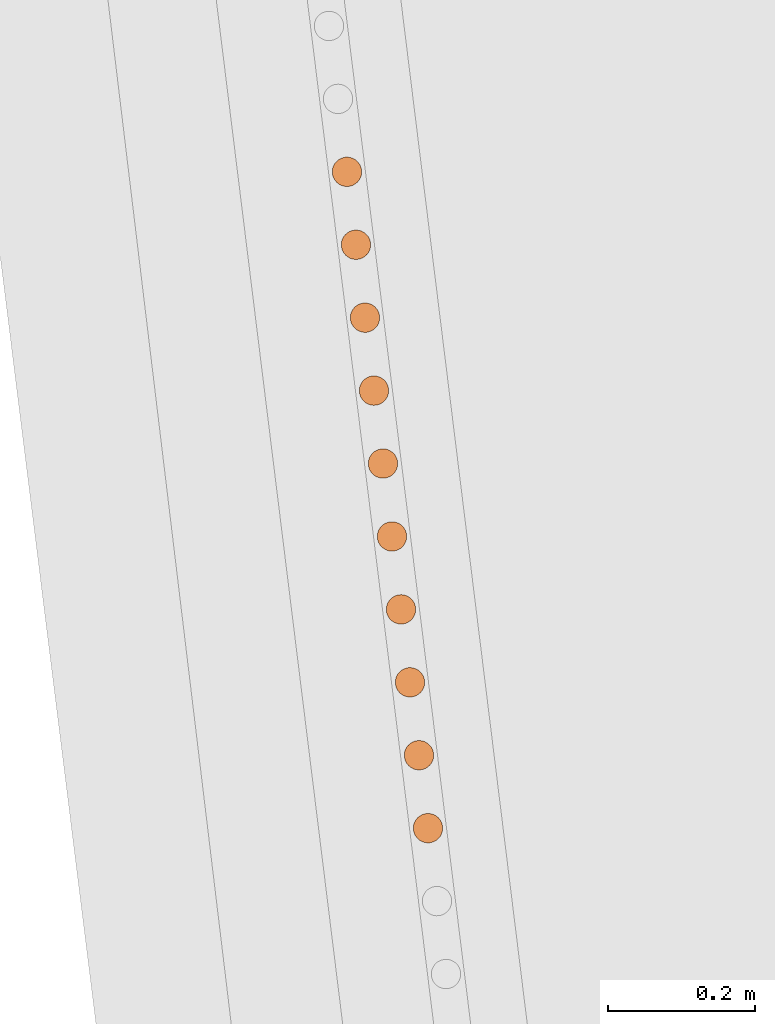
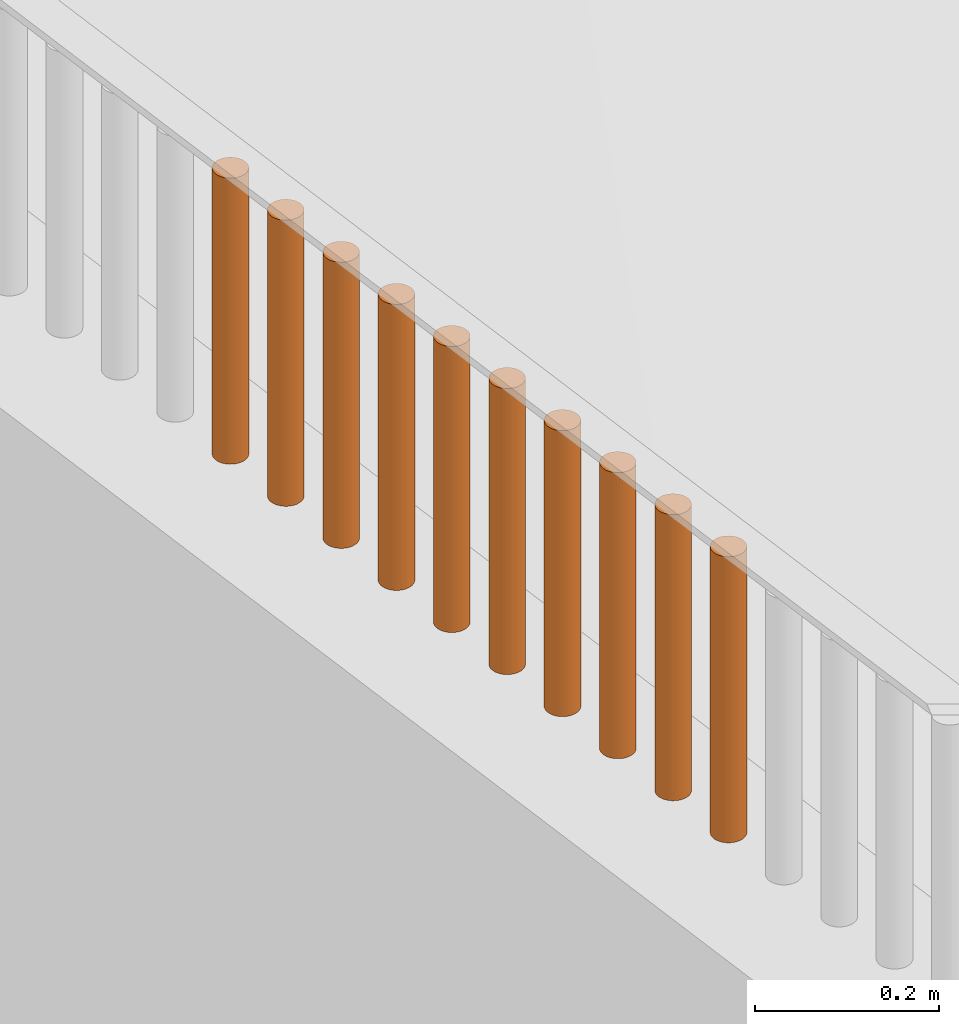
# One storey, part 225 of 1809: 10 proxies, 1 element without a shape of its own.
"""IFC2X3 building model written with IfcOpenShell, lengths in millimetres."""

from ifc_helpers import new_model, entity, si_unit, converted_unit, derived_unit, money_unit, direction, frame, origin_with_axes, place, context, subcontext, project, spatial, faceted_brep, source, transform, mapped, material, type_object, element, aggregate, save


model = new_model("IFC2X3")

# Units and contexts
model_context = context("Model", 3, precision=0.01, world=origin_with_axes(), true_north=direction((0.0, 1.0)))
body_context = subcontext(model_context, "Body", "Model", "MODEL_VIEW")
ifc_project = project(units=[si_unit("LENGTHUNIT", "METRE", prefix="MILLI"), si_unit("AREAUNIT", "SQUARE_METRE"), si_unit("VOLUMEUNIT", "CUBIC_METRE"), converted_unit("PLANEANGLEUNIT", "DEGREE", entity("IfcPlaneAngleMeasure", 0.0174532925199), si_unit("PLANEANGLEUNIT", "RADIAN"), dimensions=[0, 0, 0, 0, 0, 0, 0]), si_unit("SOLIDANGLEUNIT", "STERADIAN"), money_unit("EUR"), converted_unit("TIMEUNIT", "Year", entity("IfcTimeMeasure", 31556926.0), si_unit("TIMEUNIT", "SECOND"), dimensions=[0, 0, 1, 0, 0, 0, 0]), si_unit("MASSUNIT", "GRAM", prefix="KILO"), si_unit("THERMODYNAMICTEMPERATUREUNIT", "DEGREE_CELSIUS"), si_unit("LUMINOUSINTENSITYUNIT", "LUMEN"), si_unit("ENERGYUNIT", "JOULE", prefix="MEGA"), derived_unit("THERMALCONDUCTANCEUNIT", [(si_unit("POWERUNIT", "WATT"), 1), (si_unit("LENGTHUNIT", "METRE"), -1), (si_unit("THERMODYNAMICTEMPERATUREUNIT", "KELVIN"), -1)]), derived_unit("SPECIFICHEATCAPACITYUNIT", [(si_unit("ENERGYUNIT", "JOULE"), 1), (si_unit("MASSUNIT", "GRAM", prefix="KILO"), -1), (si_unit("THERMODYNAMICTEMPERATUREUNIT", "KELVIN"), -1)]), derived_unit("MASSDENSITYUNIT", [(si_unit("MASSUNIT", "GRAM", prefix="KILO"), 1), (si_unit("VOLUMEUNIT", "CUBIC_METRE"), -1)])], contexts=[model_context])

# Site, building, storey
site_placement = place(None, origin_with_axes())
site = spatial("IfcSite", under=ifc_project, at=site_placement, Name="Politse- ja Piirivalveameti ning Päästeameti ühishoone", CompositionType="ELEMENT")
building_placement = place(site_placement, origin_with_axes())
building = spatial("IfcBuilding", under=site, at=building_placement, Name="Politse- ja Piirivalveameti ning Päästeameti ühishoone", CompositionType="ELEMENT")
storey_placement = place(building_placement, origin_with_axes())
storey = spatial("IfcBuildingStorey", under=building, at=storey_placement, Name="Esimene korrus", CompositionType="ELEMENT", Elevation=0.0)

# Proxies
building_element_proxy_type_1 = type_object("IfcBuildingElementProxyType", Name="Railing Type", PredefinedType="NOTDEFINED")
proxy_1_placement = place(storey_placement, frame((-18956.5522504, -53688.4757966, 2100.0), z_axis=(0.0, 0.0, 1.0), x_axis=(1.0, 0.0, 0.0)))
proxy_1 = element("IfcBuildingElementProxy", 1, at=proxy_1_placement, inside=storey, type_object=building_element_proxy_type_1, Name="PIIRDEAED")
ifc_material = material(Name="ET-06_Teras - Konstruktsioon")
building_element_proxy_type_2 = type_object("IfcBuildingElementProxyType", Name="IfcBuildingElementProxy", PredefinedType="NOTDEFINED")
shared_shape_1 = source(origin_with_axes(), body_context, "Body", "Brep", [
    faceted_brep([(0.0, -20.0, 0.0), (3.47296355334, -19.6961550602, 0.0), (3.47296355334, -19.6961550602, 380.000012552), (0.0, -20.0, 380.000012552), (-3.47296355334, -19.6961550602, 0.0), (-6.84040286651, -18.7938524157, 0.0), (-10.0, -17.3205080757, 0.0), (-12.8557521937, -15.3208888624, 0.0), (-15.3208888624, -12.8557521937, 0.0), (-17.3205080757, -10.0, 0.0), (-18.7938524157, -6.84040286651, 0.0), (-19.6961550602, -3.47296355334, 0.0), (-20.0, 0.0, 0.0), (-19.6961550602, 3.47296355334, 0.0), (-18.7938524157, 6.84040286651, 0.0), (-17.3205080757, 10.0, 0.0), (-15.3208888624, 12.8557521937, 0.0), (-12.8557521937, 15.3208888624, 0.0), (-10.0, 17.3205080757, 0.0), (-6.84040286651, 18.7938524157, 0.0), (-3.47296355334, 19.6961550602, 0.0), (0.0, 20.0, 0.0), (3.47296355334, 19.6961550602, 0.0), (6.84040286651, 18.7938524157, 0.0), (10.0, 17.3205080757, 0.0), (12.8557521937, 15.3208888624, 0.0), (15.3208888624, 12.8557521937, 0.0), (17.3205080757, 10.0, 0.0), (18.7938524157, 6.84040286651, 0.0), (19.6961550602, 3.47296355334, 0.0), (20.0, 0.0, 0.0), (19.6961550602, -3.47296355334, 0.0), (18.7938524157, -6.84040286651, 0.0), (17.3205080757, -10.0, 0.0), (15.3208888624, -12.8557521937, 0.0), (12.8557521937, -15.3208888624, 0.0), (10.0, -17.3205080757, 0.0), (6.84040286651, -18.7938524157, 0.0), (6.84040286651, -18.7938524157, 380.000012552), (10.0, -17.3205080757, 380.000012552), (12.8557521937, -15.3208888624, 380.000012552), (15.3208888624, -12.8557521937, 380.000012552), (17.3205080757, -10.0, 380.000012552), (18.7938524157, -6.84040286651, 380.000012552), (19.6961550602, -3.47296355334, 380.000012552), (20.0, 0.0, 380.000012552), (19.6961550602, 3.47296355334, 380.000012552), (18.7938524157, 6.84040286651, 380.000012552), (17.3205080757, 10.0, 380.000012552), (15.3208888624, 12.8557521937, 380.000012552), (12.8557521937, 15.3208888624, 380.000012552), (10.0, 17.3205080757, 380.000012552), (6.84040286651, 18.7938524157, 380.000012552), (3.47296355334, 19.6961550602, 380.000012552), (0.0, 20.0, 380.000012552), (-3.47296355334, 19.6961550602, 380.000012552), (-6.84040286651, 18.7938524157, 380.000012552), (-10.0, 17.3205080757, 380.000012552), (-12.8557521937, 15.3208888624, 380.000012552), (-15.3208888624, 12.8557521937, 380.000012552), (-17.3205080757, 10.0, 380.000012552), (-18.7938524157, 6.84040286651, 380.000012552), (-19.6961550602, 3.47296355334, 380.000012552), (-20.0, 0.0, 380.000012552), (-19.6961550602, -3.47296355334, 380.000012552), (-18.7938524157, -6.84040286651, 380.000012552), (-17.3205080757, -10.0, 380.000012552), (-15.3208888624, -12.8557521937, 380.000012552), (-12.8557521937, -15.3208888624, 380.000012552), (-10.0, -17.3205080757, 380.000012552), (-6.84040286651, -18.7938524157, 380.000012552), (-3.47296355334, -19.6961550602, 380.000012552)], [[[0, 1, 2, 3]], [[0, 4, 5, 6, 7, 8, 9, 10, 11, 12, 13, 14, 15, 16, 17, 18, 19, 20, 21, 22, 23, 24, 25, 26, 27, 28, 29, 30, 31, 32, 33, 34, 35, 36, 37, 1]], [[1, 37, 38, 2]], [[3, 2, 38, 39, 40, 41, 42, 43, 44, 45, 46, 47, 48, 49, 50, 51, 52, 53, 54, 55, 56, 57, 58, 59, 60, 61, 62, 63, 64, 65, 66, 67, 68, 69, 70, 71]], [[4, 0, 3, 71]], [[5, 4, 71, 70]], [[6, 5, 70, 69]], [[7, 6, 69, 68]], [[8, 7, 68, 67]], [[9, 8, 67, 66]], [[10, 9, 66, 65]], [[11, 10, 65, 64]], [[12, 11, 64, 63]], [[13, 12, 63, 62]], [[14, 13, 62, 61]], [[15, 14, 61, 60]], [[16, 15, 60, 59]], [[17, 16, 59, 58]], [[18, 17, 58, 57]], [[19, 18, 57, 56]], [[20, 19, 56, 55]], [[21, 20, 55, 54]], [[22, 21, 54, 53]], [[23, 22, 53, 52]], [[24, 23, 52, 51]], [[25, 24, 51, 50]], [[26, 25, 50, 49]], [[27, 26, 49, 48]], [[28, 27, 48, 47]], [[29, 28, 47, 46]], [[30, 29, 46, 45]], [[31, 30, 45, 44]], [[32, 31, 44, 43]], [[33, 32, 43, 42]], [[34, 33, 42, 41]], [[35, 34, 41, 40]], [[36, 35, 40, 39]], [[37, 36, 39, 38]]]),
])
proxy_2_placement = place(proxy_1_placement, frame((-5384.03136519, 42784.8474209, -1.25517001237e-05), z_axis=(0.0, 0.0, 1.0), x_axis=(1.0, 0.0, 0.0)))
proxy_2 = element("IfcBuildingElementProxy", 2, at=proxy_2_placement, type_object=building_element_proxy_type_2, material=ifc_material, Name="BALUSTER - 001", context=body_context, shape_type="MappedRepresentation", body=[
    mapped(shared_shape_1, transform((0.0, 0.0, 0.0), x_axis=(0.992468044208, 0.122503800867, 0.0), y_axis=(-0.122503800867, 0.992468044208, 0.0), z_axis=(0.0, 0.0, 1.0))),
])
proxy_3_placement = place(proxy_1_placement, frame((-5396.2790701, 42884.0725523, -1.25517001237e-05), z_axis=(0.0, 0.0, 1.0), x_axis=(1.0, 0.0, 0.0)))
proxy_3 = element("IfcBuildingElementProxy", 3, at=proxy_3_placement, type_object=building_element_proxy_type_2, material=ifc_material, Name="BALUSTER - 001", context=body_context, shape_type="MappedRepresentation", body=[
    mapped(shared_shape_1, transform((0.0, 0.0, 0.0), x_axis=(0.992468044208, 0.122503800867, 0.0), y_axis=(-0.122503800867, 0.992468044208, 0.0), z_axis=(0.0, 0.0, 1.0))),
])
proxy_4_placement = place(proxy_1_placement, frame((-5408.52677502, 42983.2976837, -1.25517001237e-05), z_axis=(0.0, 0.0, 1.0), x_axis=(1.0, 0.0, 0.0)))
proxy_4 = element("IfcBuildingElementProxy", 4, at=proxy_4_placement, type_object=building_element_proxy_type_2, material=ifc_material, Name="BALUSTER - 001", context=body_context, shape_type="MappedRepresentation", body=[
    mapped(shared_shape_1, transform((0.0, 0.0, 0.0), x_axis=(0.992468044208, 0.122503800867, 0.0), y_axis=(-0.122503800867, 0.992468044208, 0.0), z_axis=(0.0, 0.0, 1.0))),
])
proxy_5_placement = place(proxy_1_placement, frame((-5433.02218484, 43181.7479466, -1.25517001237e-05), z_axis=(0.0, 0.0, 1.0), x_axis=(1.0, 0.0, 0.0)))
proxy_5 = element("IfcBuildingElementProxy", 5, at=proxy_5_placement, type_object=building_element_proxy_type_2, material=ifc_material, Name="BALUSTER - 001", context=body_context, shape_type="MappedRepresentation", body=[
    mapped(shared_shape_1, transform((0.0, 0.0, 0.0), x_axis=(0.992468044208, 0.122503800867, 0.0), y_axis=(-0.122503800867, 0.992468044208, 0.0), z_axis=(0.0, 0.0, 1.0))),
])
shared_shape_2 = source(origin_with_axes(), body_context, "Body", "Brep", [
    faceted_brep([(0.0, -20.0, 0.0), (3.47296355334, -19.6961550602, 0.0), (3.47296355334, -19.6961550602, 380.000012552), (0.0, -20.0, 380.000012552), (-3.47296355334, -19.6961550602, 0.0), (-6.84040286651, -18.7938524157, 0.0), (-10.0, -17.3205080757, 0.0), (-12.8557521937, -15.3208888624, 0.0), (-15.3208888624, -12.8557521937, 0.0), (-17.3205080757, -10.0, 0.0), (-18.7938524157, -6.84040286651, 0.0), (-19.6961550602, -3.47296355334, 0.0), (-20.0, 0.0, 0.0), (-19.6961550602, 3.47296355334, 0.0), (-18.7938524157, 6.84040286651, 0.0), (-17.3205080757, 10.0, 0.0), (-15.3208888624, 12.8557521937, 0.0), (-12.8557521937, 15.3208888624, 0.0), (-10.0, 17.3205080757, 0.0), (-6.84040286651, 18.7938524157, 0.0), (-3.47296355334, 19.6961550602, 0.0), (0.0, 20.0, 0.0), (3.47296355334, 19.6961550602, 0.0), (6.84040286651, 18.7938524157, 0.0), (10.0, 17.3205080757, 0.0), (12.8557521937, 15.3208888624, 0.0), (15.3208888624, 12.8557521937, 0.0), (17.3205080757, 10.0, 0.0), (18.7938524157, 6.84040286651, 0.0), (19.6961550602, 3.47296355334, 0.0), (20.0, 0.0, 0.0), (19.6961550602, -3.47296355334, 0.0), (18.7938524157, -6.84040286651, 0.0), (17.3205080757, -10.0, 0.0), (15.3208888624, -12.8557521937, 0.0), (12.8557521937, -15.3208888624, 0.0), (10.0, -17.3205080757, 0.0), (6.84040286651, -18.7938524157, 0.0), (6.84040286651, -18.7938524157, 380.000012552), (10.0, -17.3205080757, 380.000012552), (12.8557521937, -15.3208888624, 380.000012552), (15.3208888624, -12.8557521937, 380.000012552), (17.3205080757, -10.0, 380.000012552), (18.7938524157, -6.84040286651, 380.000012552), (19.6961550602, -3.47296355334, 380.000012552), (20.0, 0.0, 380.000012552), (19.6961550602, 3.47296355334, 380.000012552), (18.7938524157, 6.84040286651, 380.000012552), (17.3205080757, 10.0, 380.000012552), (15.3208888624, 12.8557521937, 380.000012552), (12.8557521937, 15.3208888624, 380.000012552), (10.0, 17.3205080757, 380.000012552), (6.84040286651, 18.7938524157, 380.000012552), (3.47296355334, 19.6961550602, 380.000012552), (0.0, 20.0, 380.000012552), (-3.47296355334, 19.6961550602, 380.000012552), (-6.84040286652, 18.7938524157, 380.000012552), (-10.0, 17.3205080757, 380.000012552), (-12.8557521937, 15.3208888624, 380.000012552), (-15.3208888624, 12.8557521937, 380.000012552), (-17.3205080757, 10.0, 380.000012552), (-18.7938524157, 6.84040286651, 380.000012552), (-19.6961550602, 3.47296355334, 380.000012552), (-20.0, 0.0, 380.000012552), (-19.6961550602, -3.47296355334, 380.000012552), (-18.7938524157, -6.84040286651, 380.000012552), (-17.3205080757, -10.0, 380.000012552), (-15.3208888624, -12.8557521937, 380.000012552), (-12.8557521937, -15.3208888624, 380.000012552), (-10.0, -17.3205080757, 380.000012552), (-6.84040286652, -18.7938524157, 380.000012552), (-3.47296355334, -19.6961550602, 380.000012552)], [[[0, 1, 2, 3]], [[0, 4, 5, 6, 7, 8, 9, 10, 11, 12, 13, 14, 15, 16, 17, 18, 19, 20, 21, 22, 23, 24, 25, 26, 27, 28, 29, 30, 31, 32, 33, 34, 35, 36, 37, 1]], [[1, 37, 38, 2]], [[3, 2, 38, 39, 40, 41, 42, 43, 44, 45, 46, 47, 48, 49, 50, 51, 52, 53, 54, 55, 56, 57, 58, 59, 60, 61, 62, 63, 64, 65, 66, 67, 68, 69, 70, 71]], [[4, 0, 3, 71]], [[5, 4, 71, 70]], [[6, 5, 70, 69]], [[7, 6, 69, 68]], [[8, 7, 68, 67]], [[9, 8, 67, 66]], [[10, 9, 66, 65]], [[11, 10, 65, 64]], [[12, 11, 64, 63]], [[13, 12, 63, 62]], [[14, 13, 62, 61]], [[15, 14, 61, 60]], [[16, 15, 60, 59]], [[17, 16, 59, 58]], [[18, 17, 58, 57]], [[19, 18, 57, 56]], [[20, 19, 56, 55]], [[21, 20, 55, 54]], [[22, 21, 54, 53]], [[23, 22, 53, 52]], [[24, 23, 52, 51]], [[25, 24, 51, 50]], [[26, 25, 50, 49]], [[27, 26, 49, 48]], [[28, 27, 48, 47]], [[29, 28, 47, 46]], [[30, 29, 46, 45]], [[31, 30, 45, 44]], [[32, 31, 44, 43]], [[33, 32, 43, 42]], [[34, 33, 42, 41]], [[35, 34, 41, 40]], [[36, 35, 40, 39]], [[37, 36, 39, 38]]]),
])
proxy_6_placement = place(proxy_1_placement, frame((-5335.04054554, 42387.9468952, -1.25517001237e-05), z_axis=(0.0, 0.0, 1.0), x_axis=(1.0, 0.0, 0.0)))
proxy_6 = element("IfcBuildingElementProxy", 6, at=proxy_6_placement, type_object=building_element_proxy_type_2, material=ifc_material, Name="BALUSTER - 001", context=body_context, shape_type="MappedRepresentation", body=[
    mapped(shared_shape_2, transform((0.0, 0.0, 0.0), x_axis=(0.992468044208, 0.122503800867, 0.0), y_axis=(-0.122503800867, 0.992468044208, 0.0), z_axis=(0.0, 0.0, 1.0))),
])
shared_shape_3 = source(origin_with_axes(), body_context, "Body", "Brep", [
    faceted_brep([(0.0, -20.0, 0.0), (3.47296355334, -19.6961550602, 0.0), (3.47296355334, -19.6961550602, 380.000012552), (0.0, -20.0, 380.000012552), (-3.47296355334, -19.6961550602, 0.0), (-6.84040286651, -18.7938524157, 0.0), (-10.0, -17.3205080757, 0.0), (-12.8557521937, -15.3208888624, 0.0), (-15.3208888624, -12.8557521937, 0.0), (-17.3205080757, -10.0, 0.0), (-18.7938524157, -6.84040286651, 0.0), (-19.6961550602, -3.47296355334, 0.0), (-20.0, 0.0, 0.0), (-19.6961550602, 3.47296355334, 0.0), (-18.7938524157, 6.84040286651, 0.0), (-17.3205080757, 10.0, 0.0), (-15.3208888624, 12.8557521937, 0.0), (-12.8557521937, 15.3208888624, 0.0), (-10.0, 17.3205080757, 0.0), (-6.84040286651, 18.7938524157, 0.0), (-3.47296355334, 19.6961550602, 0.0), (0.0, 20.0, 0.0), (3.47296355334, 19.6961550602, 0.0), (6.84040286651, 18.7938524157, 0.0), (10.0, 17.3205080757, 0.0), (12.8557521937, 15.3208888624, 0.0), (15.3208888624, 12.8557521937, 0.0), (17.3205080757, 10.0, 0.0), (18.7938524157, 6.84040286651, 0.0), (19.6961550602, 3.47296355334, 0.0), (20.0, 0.0, 0.0), (19.6961550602, -3.47296355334, 0.0), (18.7938524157, -6.84040286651, 0.0), (17.3205080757, -10.0, 0.0), (15.3208888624, -12.8557521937, 0.0), (12.8557521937, -15.3208888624, 0.0), (10.0, -17.3205080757, 0.0), (6.84040286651, -18.7938524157, 0.0), (6.84040286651, -18.7938524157, 380.000012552), (10.0, -17.3205080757, 380.000012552), (12.8557521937, -15.3208888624, 380.000012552), (15.3208888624, -12.8557521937, 380.000012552), (17.3205080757, -10.0, 380.000012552), (18.7938524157, -6.84040286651, 380.000012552), (19.6961550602, -3.47296355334, 380.000012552), (20.0, 0.0, 380.000012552), (19.6961550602, 3.47296355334, 380.000012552), (18.7938524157, 6.84040286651, 380.000012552), (17.3205080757, 10.0, 380.000012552), (15.3208888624, 12.8557521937, 380.000012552), (12.8557521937, 15.3208888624, 380.000012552), (10.0, 17.3205080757, 380.000012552), (6.84040286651, 18.7938524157, 380.000012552), (3.47296355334, 19.6961550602, 380.000012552), (0.0, 20.0, 380.000012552), (-3.47296355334, 19.6961550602, 380.000012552), (-6.84040286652, 18.7938524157, 380.000012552), (-10.0, 17.3205080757, 380.000012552), (-12.8557521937, 15.3208888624, 380.000012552), (-15.3208888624, 12.8557521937, 380.000012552), (-17.3205080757, 10.0, 380.000012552), (-18.7938524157, 6.84040286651, 380.000012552), (-19.6961550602, 3.47296355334, 380.000012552), (-20.0, 0.0, 380.000012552), (-19.6961550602, -3.47296355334, 380.000012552), (-18.7938524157, -6.84040286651, 380.000012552), (-17.3205080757, -10.0, 380.000012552), (-15.3208888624, -12.8557521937, 380.000012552), (-12.8557521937, -15.3208888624, 380.000012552), (-10.0, -17.3205080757, 380.000012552), (-6.84040286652, -18.7938524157, 380.000012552), (-3.47296355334, -19.6961550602, 380.000012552)], [[[0, 1, 2, 3]], [[0, 4, 5, 6, 7, 8, 9, 10, 11, 12, 13, 14, 15, 16, 17, 18, 19, 20, 21, 22, 23, 24, 25, 26, 27, 28, 29, 30, 31, 32, 33, 34, 35, 36, 37, 1]], [[1, 37, 38, 2]], [[3, 2, 38, 39, 40, 41, 42, 43, 44, 45, 46, 47, 48, 49, 50, 51, 52, 53, 54, 55, 56, 57, 58, 59, 60, 61, 62, 63, 64, 65, 66, 67, 68, 69, 70, 71]], [[4, 0, 3, 71]], [[5, 4, 71, 70]], [[6, 5, 70, 69]], [[7, 6, 69, 68]], [[8, 7, 68, 67]], [[9, 8, 67, 66]], [[10, 9, 66, 65]], [[11, 10, 65, 64]], [[12, 11, 64, 63]], [[13, 12, 63, 62]], [[14, 13, 62, 61]], [[15, 14, 61, 60]], [[16, 15, 60, 59]], [[17, 16, 59, 58]], [[18, 17, 58, 57]], [[19, 18, 57, 56]], [[20, 19, 56, 55]], [[21, 20, 55, 54]], [[22, 21, 54, 53]], [[23, 22, 53, 52]], [[24, 23, 52, 51]], [[25, 24, 51, 50]], [[26, 25, 50, 49]], [[27, 26, 49, 48]], [[28, 27, 48, 47]], [[29, 28, 47, 46]], [[30, 29, 46, 45]], [[31, 30, 45, 44]], [[32, 31, 44, 43]], [[33, 32, 43, 42]], [[34, 33, 42, 41]], [[35, 34, 41, 40]], [[36, 35, 40, 39]], [[37, 36, 39, 38]]]),
])
proxy_7_placement = place(proxy_1_placement, frame((-5322.79284063, 42288.7217638, -1.25517001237e-05), z_axis=(0.0, 0.0, 1.0), x_axis=(1.0, 0.0, 0.0)))
proxy_7 = element("IfcBuildingElementProxy", 7, at=proxy_7_placement, type_object=building_element_proxy_type_2, material=ifc_material, Name="BALUSTER - 001", context=body_context, shape_type="MappedRepresentation", body=[
    mapped(shared_shape_3, transform((0.0, 0.0, 0.0), x_axis=(0.992468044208, 0.122503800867, 0.0), y_axis=(-0.122503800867, 0.992468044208, 0.0), z_axis=(0.0, 0.0, 1.0))),
])
shared_shape_4 = source(origin_with_axes(), body_context, "Body", "Brep", [
    faceted_brep([(0.0, -20.0, 0.0), (3.47296355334, -19.6961550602, 0.0), (3.47296355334, -19.6961550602, 380.000012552), (0.0, -20.0, 380.000012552), (-3.47296355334, -19.6961550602, 0.0), (-6.84040286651, -18.7938524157, 0.0), (-10.0, -17.3205080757, 0.0), (-12.8557521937, -15.3208888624, 0.0), (-15.3208888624, -12.8557521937, 0.0), (-17.3205080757, -10.0, 0.0), (-18.7938524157, -6.84040286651, 0.0), (-19.6961550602, -3.47296355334, 0.0), (-20.0, 0.0, 0.0), (-19.6961550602, 3.47296355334, 0.0), (-18.7938524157, 6.84040286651, 0.0), (-17.3205080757, 10.0, 0.0), (-15.3208888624, 12.8557521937, 0.0), (-12.8557521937, 15.3208888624, 0.0), (-10.0, 17.3205080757, 0.0), (-6.84040286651, 18.7938524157, 0.0), (-3.47296355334, 19.6961550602, 0.0), (0.0, 20.0, 0.0), (3.47296355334, 19.6961550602, 0.0), (6.84040286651, 18.7938524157, 0.0), (10.0, 17.3205080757, 0.0), (12.8557521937, 15.3208888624, 0.0), (15.3208888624, 12.8557521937, 0.0), (17.3205080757, 10.0, 0.0), (18.7938524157, 6.84040286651, 0.0), (19.6961550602, 3.47296355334, 0.0), (20.0, 0.0, 0.0), (19.6961550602, -3.47296355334, 0.0), (18.7938524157, -6.84040286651, 0.0), (17.3205080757, -10.0, 0.0), (15.3208888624, -12.8557521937, 0.0), (12.8557521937, -15.3208888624, 0.0), (10.0, -17.3205080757, 0.0), (6.84040286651, -18.7938524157, 0.0), (6.84040286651, -18.7938524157, 380.000012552), (10.0, -17.3205080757, 380.000012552), (12.8557521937, -15.3208888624, 380.000012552), (15.3208888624, -12.8557521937, 380.000012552), (17.3205080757, -10.0, 380.000012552), (18.7938524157, -6.84040286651, 380.000012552), (19.6961550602, -3.47296355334, 380.000012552), (20.0, 0.0, 380.000012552), (19.6961550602, 3.47296355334, 380.000012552), (18.7938524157, 6.84040286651, 380.000012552), (17.3205080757, 10.0, 380.000012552), (15.3208888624, 12.8557521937, 380.000012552), (12.8557521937, 15.3208888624, 380.000012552), (10.0, 17.3205080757, 380.000012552), (6.84040286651, 18.7938524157, 380.000012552), (3.47296355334, 19.6961550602, 380.000012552), (0.0, 20.0, 380.000012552), (-3.47296355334, 19.6961550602, 380.000012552), (-6.84040286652, 18.7938524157, 380.000012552), (-10.0, 17.3205080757, 380.000012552), (-12.8557521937, 15.3208888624, 380.000012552), (-15.3208888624, 12.8557521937, 380.000012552), (-17.3205080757, 10.0, 380.000012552), (-18.7938524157, 6.84040286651, 380.000012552), (-19.6961550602, 3.47296355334, 380.000012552), (-20.0, 0.0, 380.000012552), (-19.6961550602, -3.47296355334, 380.000012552), (-18.7938524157, -6.84040286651, 380.000012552), (-17.3205080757, -10.0, 380.000012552), (-15.3208888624, -12.8557521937, 380.000012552), (-12.8557521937, -15.3208888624, 380.000012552), (-10.0, -17.3205080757, 380.000012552), (-6.84040286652, -18.7938524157, 380.000012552), (-3.47296355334, -19.6961550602, 380.000012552)], [[[0, 1, 2, 3]], [[0, 4, 5, 6, 7, 8, 9, 10, 11, 12, 13, 14, 15, 16, 17, 18, 19, 20, 21, 22, 23, 24, 25, 26, 27, 28, 29, 30, 31, 32, 33, 34, 35, 36, 37, 1]], [[1, 37, 38, 2]], [[3, 2, 38, 39, 40, 41, 42, 43, 44, 45, 46, 47, 48, 49, 50, 51, 52, 53, 54, 55, 56, 57, 58, 59, 60, 61, 62, 63, 64, 65, 66, 67, 68, 69, 70, 71]], [[4, 0, 3, 71]], [[5, 4, 71, 70]], [[6, 5, 70, 69]], [[7, 6, 69, 68]], [[8, 7, 68, 67]], [[9, 8, 67, 66]], [[10, 9, 66, 65]], [[11, 10, 65, 64]], [[12, 11, 64, 63]], [[13, 12, 63, 62]], [[14, 13, 62, 61]], [[15, 14, 61, 60]], [[16, 15, 60, 59]], [[17, 16, 59, 58]], [[18, 17, 58, 57]], [[19, 18, 57, 56]], [[20, 19, 56, 55]], [[21, 20, 55, 54]], [[22, 21, 54, 53]], [[23, 22, 53, 52]], [[24, 23, 52, 51]], [[25, 24, 51, 50]], [[26, 25, 50, 49]], [[27, 26, 49, 48]], [[28, 27, 48, 47]], [[29, 28, 47, 46]], [[30, 29, 46, 45]], [[31, 30, 45, 44]], [[32, 31, 44, 43]], [[33, 32, 43, 42]], [[34, 33, 42, 41]], [[35, 34, 41, 40]], [[36, 35, 40, 39]], [[37, 36, 39, 38]]]),
])
proxy_8_placement = place(proxy_1_placement, frame((-5347.28825045, 42487.1720266, -1.25517001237e-05), z_axis=(0.0, 0.0, 1.0), x_axis=(1.0, 0.0, 0.0)))
proxy_8 = element("IfcBuildingElementProxy", 8, at=proxy_8_placement, type_object=building_element_proxy_type_2, material=ifc_material, Name="BALUSTER - 001", context=body_context, shape_type="MappedRepresentation", body=[
    mapped(shared_shape_4, transform((0.0, 0.0, 0.0), x_axis=(0.992468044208, 0.122503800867, 0.0), y_axis=(-0.122503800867, 0.992468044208, 0.0), z_axis=(0.0, 0.0, 1.0))),
])
proxy_9_placement = place(proxy_1_placement, frame((-5359.53595536, 42586.397158, -1.25517001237e-05), z_axis=(0.0, 0.0, 1.0), x_axis=(1.0, 0.0, 0.0)))
proxy_9 = element("IfcBuildingElementProxy", 9, at=proxy_9_placement, type_object=building_element_proxy_type_2, material=ifc_material, Name="BALUSTER - 001", context=body_context, shape_type="MappedRepresentation", body=[
    mapped(shared_shape_4, transform((0.0, 0.0, 0.0), x_axis=(0.992468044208, 0.122503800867, 0.0), y_axis=(-0.122503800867, 0.992468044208, 0.0), z_axis=(0.0, 0.0, 1.0))),
])
shared_shape_5 = source(origin_with_axes(), body_context, "Body", "Brep", [
    faceted_brep([(0.0, -20.0, 0.0), (3.47296355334, -19.6961550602, 0.0), (3.47296355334, -19.6961550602, 380.000012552), (0.0, -20.0, 380.000012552), (-3.47296355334, -19.6961550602, 0.0), (-6.84040286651, -18.7938524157, 0.0), (-10.0, -17.3205080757, 0.0), (-12.8557521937, -15.3208888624, 0.0), (-15.3208888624, -12.8557521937, 0.0), (-17.3205080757, -10.0, 0.0), (-18.7938524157, -6.84040286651, 0.0), (-19.6961550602, -3.47296355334, 0.0), (-20.0, 0.0, 0.0), (-19.6961550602, 3.47296355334, 0.0), (-18.7938524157, 6.84040286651, 0.0), (-17.3205080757, 10.0, 0.0), (-15.3208888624, 12.8557521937, 0.0), (-12.8557521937, 15.3208888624, 0.0), (-10.0, 17.3205080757, 0.0), (-6.84040286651, 18.7938524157, 0.0), (-3.47296355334, 19.6961550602, 0.0), (0.0, 20.0, 0.0), (3.47296355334, 19.6961550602, 0.0), (6.84040286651, 18.7938524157, 0.0), (10.0, 17.3205080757, 0.0), (12.8557521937, 15.3208888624, 0.0), (15.3208888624, 12.8557521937, 0.0), (17.3205080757, 10.0, 0.0), (18.7938524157, 6.84040286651, 0.0), (19.6961550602, 3.47296355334, 0.0), (20.0, 0.0, 0.0), (19.6961550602, -3.47296355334, 0.0), (18.7938524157, -6.84040286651, 0.0), (17.3205080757, -10.0, 0.0), (15.3208888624, -12.8557521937, 0.0), (12.8557521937, -15.3208888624, 0.0), (10.0, -17.3205080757, 0.0), (6.84040286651, -18.7938524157, 0.0), (6.84040286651, -18.7938524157, 380.000012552), (10.0, -17.3205080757, 380.000012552), (12.8557521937, -15.3208888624, 380.000012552), (15.3208888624, -12.8557521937, 380.000012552), (17.3205080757, -10.0, 380.000012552), (18.7938524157, -6.84040286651, 380.000012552), (19.6961550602, -3.47296355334, 380.000012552), (20.0, 0.0, 380.000012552), (19.6961550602, 3.47296355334, 380.000012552), (18.7938524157, 6.84040286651, 380.000012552), (17.3205080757, 10.0, 380.000012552), (15.3208888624, 12.8557521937, 380.000012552), (12.8557521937, 15.3208888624, 380.000012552), (10.0, 17.3205080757, 380.000012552), (6.84040286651, 18.7938524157, 380.000012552), (3.47296355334, 19.6961550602, 380.000012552), (0.0, 20.0, 380.000012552), (-3.47296355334, 19.6961550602, 380.000012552), (-6.84040286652, 18.7938524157, 380.000012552), (-10.0, 17.3205080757, 380.000012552), (-12.8557521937, 15.3208888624, 380.000012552), (-15.3208888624, 12.8557521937, 380.000012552), (-17.3205080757, 10.0, 380.000012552), (-18.7938524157, 6.84040286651, 380.000012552), (-19.6961550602, 3.47296355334, 380.000012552), (-20.0, 0.0, 380.000012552), (-19.6961550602, -3.47296355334, 380.000012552), (-18.7938524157, -6.84040286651, 380.000012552), (-17.3205080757, -10.0, 380.000012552), (-15.3208888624, -12.8557521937, 380.000012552), (-12.8557521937, -15.3208888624, 380.000012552), (-10.0, -17.3205080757, 380.000012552), (-6.84040286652, -18.7938524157, 380.000012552), (-3.47296355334, -19.6961550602, 380.000012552)], [[[0, 1, 2, 3]], [[0, 4, 5, 6, 7, 8, 9, 10, 11, 12, 13, 14, 15, 16, 17, 18, 19, 20, 21, 22, 23, 24, 25, 26, 27, 28, 29, 30, 31, 32, 33, 34, 35, 36, 37, 1]], [[1, 37, 38, 2]], [[3, 2, 38, 39, 40, 41, 42, 43, 44, 45, 46, 47, 48, 49, 50, 51, 52, 53, 54, 55, 56, 57, 58, 59, 60, 61, 62, 63, 64, 65, 66, 67, 68, 69, 70, 71]], [[4, 0, 3, 71]], [[5, 4, 71, 70]], [[6, 5, 70, 69]], [[7, 6, 69, 68]], [[8, 7, 68, 67]], [[9, 8, 67, 66]], [[10, 9, 66, 65]], [[11, 10, 65, 64]], [[12, 11, 64, 63]], [[13, 12, 63, 62]], [[14, 13, 62, 61]], [[15, 14, 61, 60]], [[16, 15, 60, 59]], [[17, 16, 59, 58]], [[18, 17, 58, 57]], [[19, 18, 57, 56]], [[20, 19, 56, 55]], [[21, 20, 55, 54]], [[22, 21, 54, 53]], [[23, 22, 53, 52]], [[24, 23, 52, 51]], [[25, 24, 51, 50]], [[26, 25, 50, 49]], [[27, 26, 49, 48]], [[28, 27, 48, 47]], [[29, 28, 47, 46]], [[30, 29, 46, 45]], [[31, 30, 45, 44]], [[32, 31, 44, 43]], [[33, 32, 43, 42]], [[34, 33, 42, 41]], [[35, 34, 41, 40]], [[36, 35, 40, 39]], [[37, 36, 39, 38]]]),
])
proxy_10_placement = place(proxy_1_placement, frame((-5371.78366028, 42685.6222895, -1.25517001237e-05), z_axis=(0.0, 0.0, 1.0), x_axis=(1.0, 0.0, 0.0)))
proxy_10 = element("IfcBuildingElementProxy", 10, at=proxy_10_placement, type_object=building_element_proxy_type_2, material=ifc_material, Name="BALUSTER - 001", context=body_context, shape_type="MappedRepresentation", body=[
    mapped(shared_shape_5, transform((0.0, 0.0, 0.0), x_axis=(0.992468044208, 0.122503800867, 0.0), y_axis=(-0.122503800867, 0.992468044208, 0.0), z_axis=(0.0, 0.0, 1.0))),
])
shared_shape_6 = source(origin_with_axes(), body_context, "Body", "Brep", [
    faceted_brep([(0.0, -20.0, 0.0), (3.47296355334, -19.6961550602, 0.0), (3.47296355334, -19.6961550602, 380.000012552), (0.0, -20.0, 380.000012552), (-3.47296355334, -19.6961550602, 0.0), (-6.84040286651, -18.7938524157, 0.0), (-10.0, -17.3205080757, 0.0), (-12.8557521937, -15.3208888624, 0.0), (-15.3208888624, -12.8557521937, 0.0), (-17.3205080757, -10.0, 0.0), (-18.7938524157, -6.84040286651, 0.0), (-19.6961550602, -3.47296355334, 0.0), (-20.0, 0.0, 0.0), (-19.6961550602, 3.47296355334, 0.0), (-18.7938524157, 6.84040286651, 0.0), (-17.3205080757, 10.0, 0.0), (-15.3208888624, 12.8557521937, 0.0), (-12.8557521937, 15.3208888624, 0.0), (-10.0, 17.3205080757, 0.0), (-6.84040286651, 18.7938524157, 0.0), (-3.47296355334, 19.6961550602, 0.0), (0.0, 20.0, 0.0), (3.47296355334, 19.6961550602, 0.0), (6.84040286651, 18.7938524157, 0.0), (10.0, 17.3205080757, 0.0), (12.8557521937, 15.3208888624, 0.0), (15.3208888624, 12.8557521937, 0.0), (17.3205080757, 10.0, 0.0), (18.7938524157, 6.84040286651, 0.0), (19.6961550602, 3.47296355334, 0.0), (20.0, 0.0, 0.0), (19.6961550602, -3.47296355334, 0.0), (18.7938524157, -6.84040286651, 0.0), (17.3205080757, -10.0, 0.0), (15.3208888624, -12.8557521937, 0.0), (12.8557521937, -15.3208888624, 0.0), (10.0, -17.3205080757, 0.0), (6.84040286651, -18.7938524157, 0.0), (6.84040286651, -18.7938524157, 380.000012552), (10.0, -17.3205080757, 380.000012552), (12.8557521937, -15.3208888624, 380.000012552), (15.3208888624, -12.8557521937, 380.000012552), (17.3205080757, -10.0, 380.000012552), (18.7938524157, -6.84040286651, 380.000012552), (19.6961550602, -3.47296355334, 380.000012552), (20.0, 0.0, 380.000012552), (19.6961550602, 3.47296355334, 380.000012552), (18.7938524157, 6.84040286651, 380.000012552), (17.3205080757, 10.0, 380.000012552), (15.3208888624, 12.8557521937, 380.000012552), (12.8557521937, 15.3208888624, 380.000012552), (10.0, 17.3205080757, 380.000012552), (6.84040286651, 18.7938524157, 380.000012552), (3.47296355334, 19.6961550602, 380.000012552), (0.0, 20.0, 380.000012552), (-3.47296355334, 19.6961550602, 380.000012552), (-6.84040286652, 18.7938524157, 380.000012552), (-10.0, 17.3205080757, 380.000012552), (-12.8557521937, 15.3208888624, 380.000012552), (-15.3208888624, 12.8557521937, 380.000012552), (-17.3205080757, 10.0, 380.000012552), (-18.7938524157, 6.84040286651, 380.000012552), (-19.6961550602, 3.47296355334, 380.000012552), (-20.0, 0.0, 380.000012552), (-19.6961550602, -3.47296355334, 380.000012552), (-18.7938524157, -6.84040286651, 380.000012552), (-17.3205080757, -10.0, 380.000012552), (-15.3208888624, -12.8557521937, 380.000012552), (-12.8557521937, -15.3208888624, 380.000012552), (-10.0, -17.3205080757, 380.000012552), (-6.84040286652, -18.7938524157, 380.000012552), (-3.47296355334, -19.6961550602, 380.000012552)], [[[0, 1, 2, 3]], [[0, 4, 5, 6, 7, 8, 9, 10, 11, 12, 13, 14, 15, 16, 17, 18, 19, 20, 21, 22, 23, 24, 25, 26, 27, 28, 29, 30, 31, 32, 33, 34, 35, 36, 37, 1]], [[1, 37, 38, 2]], [[3, 2, 38, 39, 40, 41, 42, 43, 44, 45, 46, 47, 48, 49, 50, 51, 52, 53, 54, 55, 56, 57, 58, 59, 60, 61, 62, 63, 64, 65, 66, 67, 68, 69, 70, 71]], [[4, 0, 3, 71]], [[5, 4, 71, 70]], [[6, 5, 70, 69]], [[7, 6, 69, 68]], [[8, 7, 68, 67]], [[9, 8, 67, 66]], [[10, 9, 66, 65]], [[11, 10, 65, 64]], [[12, 11, 64, 63]], [[13, 12, 63, 62]], [[14, 13, 62, 61]], [[15, 14, 61, 60]], [[16, 15, 60, 59]], [[17, 16, 59, 58]], [[18, 17, 58, 57]], [[19, 18, 57, 56]], [[20, 19, 56, 55]], [[21, 20, 55, 54]], [[22, 21, 54, 53]], [[23, 22, 53, 52]], [[24, 23, 52, 51]], [[25, 24, 51, 50]], [[26, 25, 50, 49]], [[27, 26, 49, 48]], [[28, 27, 48, 47]], [[29, 28, 47, 46]], [[30, 29, 46, 45]], [[31, 30, 45, 44]], [[32, 31, 44, 43]], [[33, 32, 43, 42]], [[34, 33, 42, 41]], [[35, 34, 41, 40]], [[36, 35, 40, 39]], [[37, 36, 39, 38]]]),
])
proxy_11_placement = place(proxy_1_placement, frame((-5420.77447993, 43082.5228152, -1.25517001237e-05), z_axis=(0.0, 0.0, 1.0), x_axis=(1.0, 0.0, 0.0)))
proxy_11 = element("IfcBuildingElementProxy", 11, at=proxy_11_placement, type_object=building_element_proxy_type_2, material=ifc_material, Name="BALUSTER - 001", context=body_context, shape_type="MappedRepresentation", body=[
    mapped(shared_shape_6, transform((0.0, 0.0, 0.0), x_axis=(0.992468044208, 0.122503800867, 0.0), y_axis=(-0.122503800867, 0.992468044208, 0.0), z_axis=(0.0, 0.0, 1.0))),
])
aggregate(proxy_1, [proxy_7, proxy_6, proxy_8, proxy_9, proxy_10, proxy_2, proxy_3, proxy_4, proxy_11, proxy_5])

save(model, "model.ifc")
